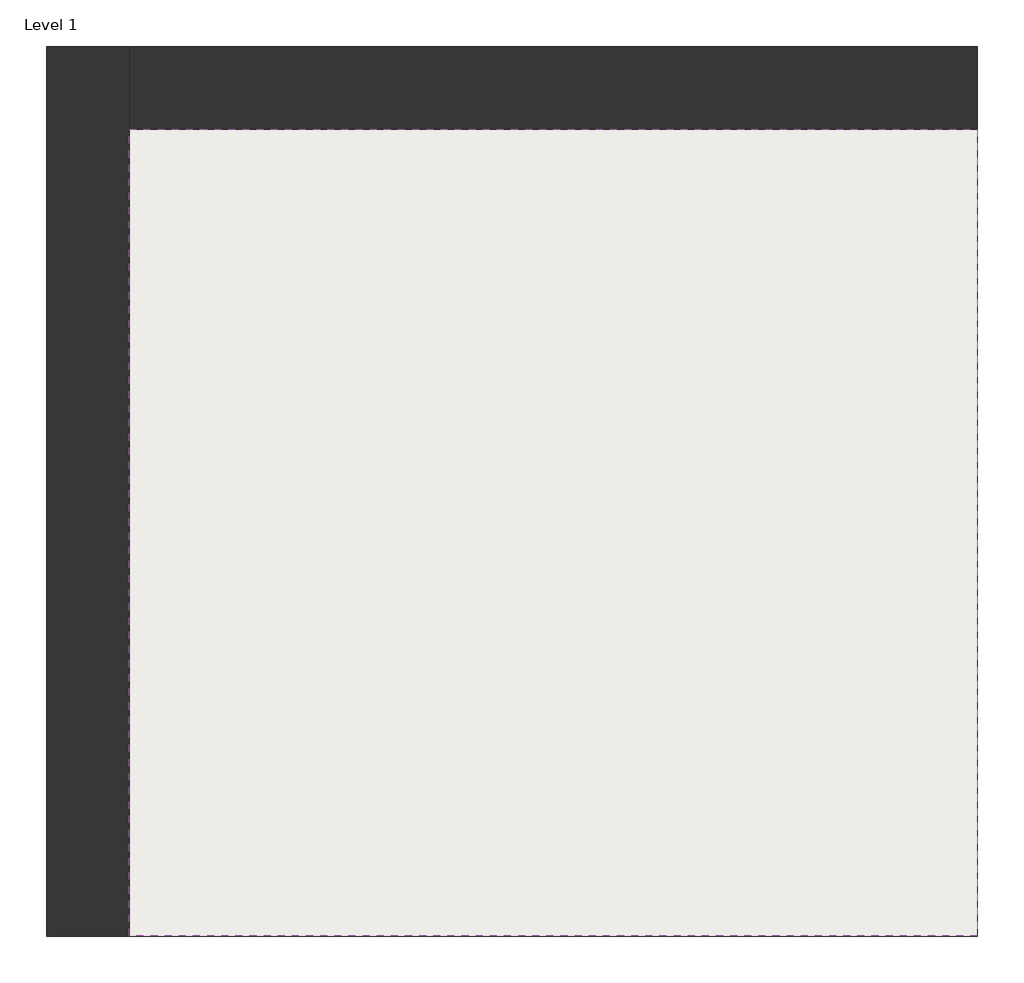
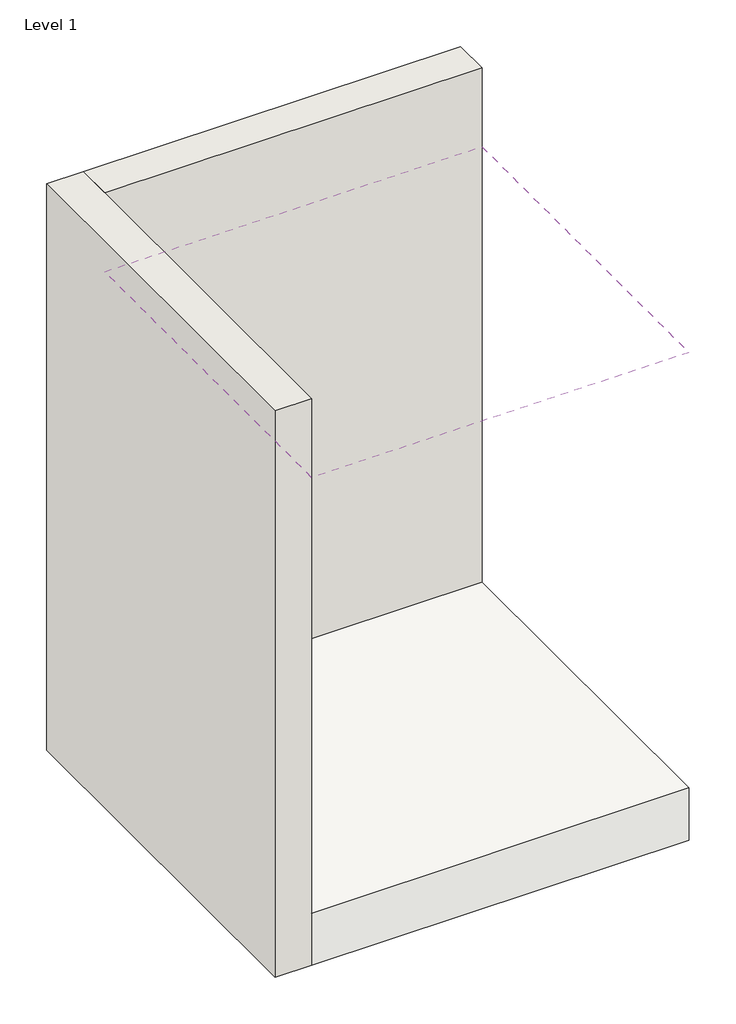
# One storey: 2 walls, 1 covering, 1 slab.
"""IFC4 building model written with IfcOpenShell, lengths in millimetres."""

from ifc_helpers import new_model, si_unit, point, frame, frame_2d, origin, place, context, project, spatial, polyline, circle_curve, trimmed, segment, composite_curve, outline, extrude, faceted_brep, element, save

model = new_model("IFC4")

# Units and contexts
model_context = context("Model", 3, world=origin())
ifc_project = project(units=[si_unit("LENGTHUNIT", "METRE", prefix="MILLI")], contexts=[model_context])

# Site, building, storey
site = spatial("IfcSite", under=ifc_project)
building = spatial("IfcBuilding", under=site)
storey = spatial("IfcBuildingStorey", under=building, Name="Level 1", Elevation=0.0)

# Covering
placement = place(None, origin())
element("IfcCovering", 1, ObjectType="Ceiling 2", at=placement, inside=storey, context=model_context, shape_type="SweptSolid", body=[
    extrude(outline(polyline([(2208.2676417, 3741.7404022), (4291.0676417, 3741.7404022), (4291.0676417, 1760.5404022), (2208.2676417, 1760.5404022), (2208.2676417, 3741.7404022)]), holes=[composite_curve([segment(trimmed(circle_curve(frame_2d((3782.3363798, 3019.2673026)), 61.6006511), [point((3782.3363798, 2957.6666515))], [point((3782.3363798, 3080.8679538))], True, "CARTESIAN"), True, "CONTINUOUS"), segment(trimmed(circle_curve(frame_2d((3782.3363798, 3019.2673026)), 61.6006511), [point((3782.3363798, 3080.8679538))], [point((3782.3363798, 2957.6666515))], True, "CARTESIAN"), True, "CONTINUOUS")], self_intersect=False), composite_curve([segment(trimmed(circle_curve(frame_2d((3057.6894028, 2312.8918783)), 61.6006511), [point((2996.0887516, 2312.8918783))], [point((3119.2900539, 2312.8918783))], True, "CARTESIAN"), True, "CONTINUOUS"), segment(trimmed(circle_curve(frame_2d((3057.6894028, 2312.8918783)), 61.6006511), [point((3119.2900539, 2312.8918783))], [point((2996.0887516, 2312.8918783))], True, "CARTESIAN"), True, "CONTINUOUS")], self_intersect=False)]), frame((0.0, 0.0, 2540.0), z_axis=(0.0, 0.0, 1.0), x_axis=(1.0, 0.0, 0.0)), (0.0, 0.0, 1.0), 22.352),
])

# Slab
element("IfcSlab", 2, ObjectType="Floor 1", at=placement, inside=storey, context=model_context, shape_type="SweptSolid", body=[
    extrude(outline(polyline([(4291.0676417, 3741.7404022), (4291.0676417, 1760.5404022), (2208.2676417, 1760.5404022), (2208.2676417, 3741.7404022), (4291.0676417, 3741.7404022)])), frame((0.0, 0.0, -304.8), z_axis=(0.0, 0.0, 1.0), x_axis=(1.0, 0.0, 0.0)), (0.0, 0.0, 1.0), 304.8),
])

# Walls
element("IfcWall", 3, ObjectType="Wall 1", at=placement, inside=storey, context=model_context, shape_type="Brep", body=[
    faceted_brep([(2005.0676417, 3944.9404022, -304.8), (2005.0676417, 1760.5404022, -304.8), (2005.0676417, 1760.5404022, 3000.0), (2005.0676417, 3944.9404022, 3000.0), (2208.2676417, 3944.9404022, -304.8), (2208.2676417, 3944.9404022, 3000.0), (2208.2676417, 3741.7404022, 3000.0), (2208.2676417, 1760.5404022, 3000.0), (2208.2676417, 1760.5404022, -304.8), (2208.2676417, 3741.7404022, -304.8)], [[[0, 1, 2, 3]], [[4, 5, 6, 7, 8, 9]], [[1, 0, 4, 9, 8]], [[2, 1, 8, 7]], [[3, 2, 7, 6, 5]], [[0, 3, 5, 4]]]),
])
element("IfcWall", 4, ObjectType="Wall 1", at=placement, inside=storey, context=model_context, shape_type="SweptSolid", body=[
    extrude(outline(polyline([(4291.0676417, 3741.7404022), (2208.2676417, 3741.7404022), (2208.2676417, 3944.9404022), (4291.0676417, 3944.9404022), (4291.0676417, 3741.7404022)])), frame((0.0, 0.0, -304.8), z_axis=(0.0, 0.0, 1.0), x_axis=(1.0, 0.0, 0.0)), (0.0, 0.0, 1.0), 3304.8),
])

save(model, "model.ifc")
